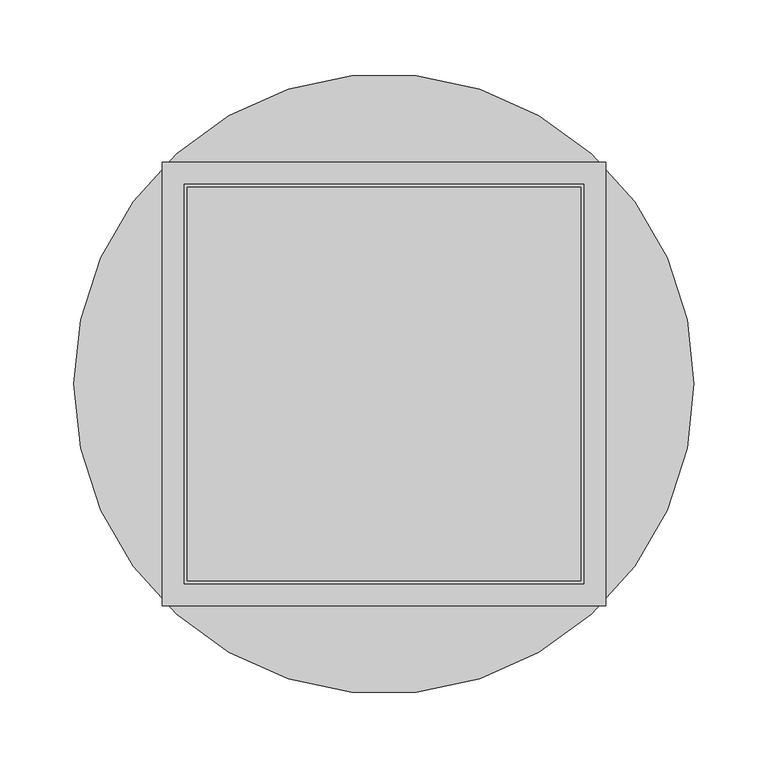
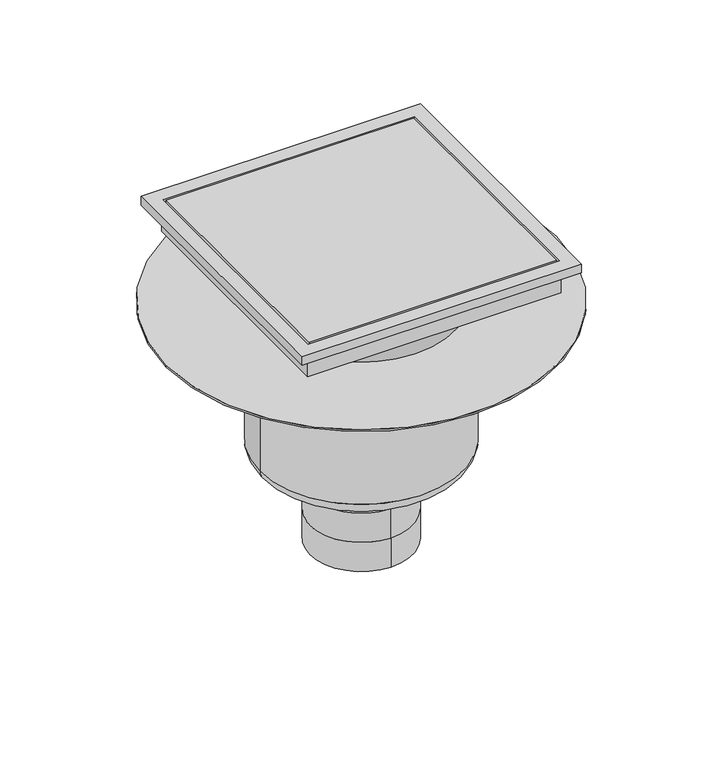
"""IFC4 building model written with IfcOpenShell, lengths in millimetres: sanitary terminal geometry, PF_ST_UN_Siphon telescopics epur hygiene first_ACO : 300 x 300 telescopic hygenic gully 218mm outlet DN110."""

from ifc_helpers import new_model, si_unit, point, frame, origin, origin_2d, place, context, project, spatial, polyline, circle_curve, ellipse_curve, trimmed, segment, composite_curve, outline, extrude, faceted_brep, source, transform, mapped, element, save
from ifc_brep_helpers import plane_surface, cylinder_surface, revolved_surface, advanced_brep


def sanitary_terminal_a351f0a7(model_context):
    return source(origin(), model_context, "Body", "SolidModel", [
        advanced_brep(
        [(0.0, -55.0, -469.0), (0.0, 55.0, -469.0), (0.0, -55.0, -436.0), (0.0, 55.0, -436.0), (0.0, -55.0, -403.0), (0.0, 55.0, -403.0), (0.0, 55.0, -370.0), (55.0, 0.0, -370.0), (0.0, -55.0, -370.0), (-55.0, 0.0, -370.0), (109.0, 0.0, -355.0), (-109.0, 0.0, -355.0), (-109.0, 0.0, -202.0), (109.0, 0.0, -202.0), (94.0, 0.0, -370.0), (-94.0, 0.0, -370.0), (-209.5, 0.0, -202.0), (209.5, 0.0, -202.0), (-209.5, 0.0, -200.0), (209.5, 0.0, -200.0)],
        [
            (0, 1, circle_curve(frame((0.0, 0.0, -469.0), z_axis=(0.0, 0.0, -1.0), x_axis=(0.0, 1.0, 0.0)), 55.0)),
            (1, 0, circle_curve(frame((0.0, 0.0, -469.0), z_axis=(0.0, 0.0, -1.0), x_axis=(0.0, 1.0, 0.0)), 55.0)),
            (0, 2),
            (2, 3, circle_curve(frame((0.0, 0.0, -436.0), z_axis=(0.0, 0.0, -1.0), x_axis=(0.0, 1.0, 0.0)), 55.0)),
            (3, 1),
            (3, 2, circle_curve(frame((0.0, 0.0, -436.0), z_axis=(0.0, 0.0, -1.0), x_axis=(0.0, 1.0, 0.0)), 55.0)),
            (4, 2),
            (3, 5),
            (5, 4, circle_curve(frame((0.0, 0.0, -403.0), z_axis=(0.0, 0.0, -1.0), x_axis=(1.0, 0.0, 0.0)), 55.0)),
            (4, 5, circle_curve(frame((0.0, 0.0, -403.0), z_axis=(0.0, 0.0, -1.0), x_axis=(-1.0, 0.0, 0.0)), 55.0)),
            (5, 6),
            (6, 7, circle_curve(frame((0.0, 0.0, -370.0), z_axis=(0.0, 0.0, -1.0), x_axis=(0.0, 1.0, 0.0)), 55.0)),
            (7, 8, circle_curve(frame((0.0, 0.0, -370.0), z_axis=(0.0, 0.0, -1.0), x_axis=(0.0, 1.0, 0.0)), 55.0)),
            (8, 4),
            (8, 9, circle_curve(frame((0.0, 0.0, -370.0), z_axis=(0.0, 0.0, -1.0), x_axis=(0.0, 1.0, 0.0)), 55.0)),
            (9, 6, circle_curve(frame((0.0, 0.0, -370.0), z_axis=(0.0, 0.0, -1.0), x_axis=(0.0, 1.0, 0.0)), 55.0)),
            (10, 11, circle_curve(frame((0.0, 0.0, -355.0), z_axis=(0.0, 0.0, 1.0), x_axis=(-1.0, 0.0, 0.0)), 109.0)),
            (11, 12),
            (12, 13, circle_curve(frame((0.0, 0.0, -202.0), z_axis=(0.0, 0.0, -1.0), x_axis=(-1.0, 0.0, 0.0)), 109.0)),
            (13, 10),
            (11, 10, circle_curve(frame((0.0, 0.0, -355.0), z_axis=(0.0, 0.0, 1.0), x_axis=(-1.0, 0.0, 0.0)), 109.0)),
            (13, 12, circle_curve(frame((0.0, 0.0, -202.0), z_axis=(0.0, 0.0, -1.0), x_axis=(-1.0, 0.0, 0.0)), 109.0)),
            (10, 14, circle_curve(frame((94.0, 0.0, -355.0), z_axis=(0.0, 1.0, 0.0), x_axis=(-1.0, 0.0, 0.0)), 15.0)),
            (14, 15, circle_curve(frame((0.0, 0.0, -370.0), z_axis=(0.0, 0.0, 1.0), x_axis=(-1.0, 0.0, 0.0)), 94.0)),
            (15, 11, circle_curve(frame((-94.0, 0.0, -355.0), z_axis=(0.0, 1.0, 0.0), x_axis=(1.0, 0.0, 0.0)), 15.0)),
            (15, 14, circle_curve(frame((0.0, 0.0, -370.0), z_axis=(0.0, 0.0, 1.0), x_axis=(-1.0, 0.0, 0.0)), 94.0)),
            (14, 7),
            (9, 15),
            (16, 17, circle_curve(frame((0.0, 0.0, -202.0), z_axis=(0.0, 0.0, -1.0), x_axis=(1.0, 0.0, 0.0)), 209.5)),
            (17, 16, circle_curve(frame((0.0, 0.0, -202.0), z_axis=(0.0, 0.0, -1.0), x_axis=(1.0, 0.0, 0.0)), 209.5)),
            (18, 19, circle_curve(frame((0.0, 0.0, -200.0), z_axis=(0.0, 0.0, 1.0), x_axis=(1.0, 0.0, 0.0)), 209.5)),
            (19, 18, circle_curve(frame((0.0, 0.0, -200.0), z_axis=(0.0, 0.0, 1.0), x_axis=(1.0, 0.0, 0.0)), 209.5)),
            (17, 19),
            (18, 16),
        ],
        [
            plane_surface(frame((0.0, 55.0, -469.0), z_axis=(0.0, 0.0, -1.0), x_axis=(1.0, 0.0, 0.0))),
            cylinder_surface(frame((0.0, 0.0, -436.0), z_axis=(0.0, 0.0, -1.0), x_axis=(0.0, 1.0, 0.0)), 55.0),
            cylinder_surface(frame((0.0, 0.0, -403.0), z_axis=(0.0, 0.0, -1.0), x_axis=(1.0, 0.0, 0.0)), 55.0),
            cylinder_surface(frame((0.0, 0.0, -403.0), z_axis=(0.0, 0.0, -1.0), x_axis=(-1.0, 0.0, 0.0)), 55.0),
            cylinder_surface(frame((0.0, 0.0, -370.0), z_axis=(0.0, 0.0, -1.0), x_axis=(0.0, 1.0, 0.0)), 55.0),
            cylinder_surface(frame((0.0, 0.0, -140.0), z_axis=(0.0, 0.0, -1.0), x_axis=(-1.0, 0.0, 0.0)), 109.0),
            revolved_surface(trimmed(ellipse_curve(frame((-94.0, 0.0, -355.0), z_axis=(0.0, -1.0, 0.0), x_axis=(1.0, 0.0, 0.0)), 15.0, 15.0), [point((-109.0, 0.0, -355.0))], [point((-94.0, 0.0, -370.0))], True, "CARTESIAN"), (0.0, 0.0, -140.0), (0.0, 0.0, -1.0)),
            plane_surface(frame((0.0, 0.0, -370.0), z_axis=(0.0, 0.0, -1.0), x_axis=(-1.0, 0.0, 0.0))),
            plane_surface(frame((209.5, 0.0, -202.0), z_axis=(0.0, 0.0, -1.0), x_axis=(0.0, -1.0, 0.0))),
            plane_surface(frame((209.5, 0.0, -200.0), z_axis=(0.0, 0.0, 1.0), x_axis=(0.0, 1.0, 0.0))),
            cylinder_surface(frame((0.0, 0.0, -202.0), z_axis=(0.0, 0.0, 1.0), x_axis=(1.0, 0.0, 0.0)), 209.5),
        ],
        [
            (0, [[1, 2]]),
            (1, [[-1, 3, 4, 5]]),
            (1, [[-2, -5, 6, -3]]),
            (2, [[7, -6, 8, 9]]),
            (3, [[-7, 10, -8, -4]]),
            (4, [[11, 12, 13, 14, -9]]),
            (4, [[-11, -10, -14, 15, 16]]),
            (5, [[17, 18, 19, 20]]),
            (5, [[-18, 21, -20, 22]]),
            (6, [[-17, 23, 24, 25]]),
            (6, [[-21, -25, 26, -23]]),
            (7, [[-24, 27, -12, -16, 28]]),
            (7, [[-26, -28, -15, -13, -27]]),
            (8, [[29, 30], [-19, -22]]),
            (9, [[31, 32]]),
            (10, [[-30, 33, -31, 34]]),
            (10, [[-29, -34, -32, -33]]),
        ],
    ),
        extrude(outline(composite_curve([segment(trimmed(circle_curve(origin_2d(), 100.0), [point((-100.0, 0.0))], [point((100.0, 0.0))], False, "CARTESIAN"), True, "CONTINUOUS"), segment(trimmed(circle_curve(origin_2d(), 100.0), [point((100.0, 0.0))], [point((-100.0, 0.0))], False, "CARTESIAN"), True, "CONTINUOUS")], self_intersect=False)), frame((0.0, 0.0, -215.0), z_axis=(0.0, 0.0, 1.0), x_axis=(1.0, 0.0, 0.0)), (0.0, 0.0, 1.0), 59.0),
        faceted_brep([(150.0, 150.0, -130.0), (150.0, 150.0, -120.0), (150.0, -150.0, -120.0), (150.0, -150.0, -130.0), (136.0, 136.0, -156.0), (136.0, 136.0, -130.0), (136.0, -136.0, -130.0), (136.0, -136.0, -156.0), (135.0, -135.0, -120.0), (135.0, 135.0, -120.0), (135.0, 135.0, -146.0), (135.0, -135.0, -146.0), (-150.0, -150.0, -120.0), (-150.0, -150.0, -130.0), (-136.0, -136.0, -130.0), (-136.0, -136.0, -156.0), (-135.0, -135.0, -120.0), (-135.0, -135.0, -146.0), (-150.0, 150.0, -120.0), (-150.0, 150.0, -130.0), (-136.0, 136.0, -130.0), (-136.0, 136.0, -156.0), (-135.0, 135.0, -120.0), (-135.0, 135.0, -146.0)], [[[0, 1, 2, 3]], [[4, 5, 6, 7]], [[8, 9, 10, 11]], [[3, 2, 12, 13]], [[7, 6, 14, 15]], [[16, 8, 11, 17]], [[13, 12, 18, 19]], [[15, 14, 20, 21]], [[22, 16, 17, 23]], [[2, 1, 18, 12], [9, 8, 16, 22]], [[1, 0, 19, 18]], [[0, 3, 13, 19], [6, 5, 20, 14]], [[5, 4, 21, 20]], [[4, 7, 15, 21]], [[9, 22, 23, 10]], [[11, 10, 23, 17]]]),
        extrude(outline(polyline([(133.0, 133.0), (133.0, -133.0), (-133.0, -133.0), (-133.0, 133.0), (133.0, 133.0)])), frame((0.0, 0.0, -146.0), z_axis=(0.0, 0.0, 1.0), x_axis=(1.0, 0.0, 0.0)), (0.0, 0.0, 1.0), 26.0),
    ])


if __name__ == "__main__":
    model = new_model("IFC4")
    model_context = context("Model", 3, world=origin())
    ifc_project = project(units=[si_unit("LENGTHUNIT", "METRE", prefix="MILLI")], contexts=[model_context])
    site = spatial("IfcSite", under=ifc_project)
    building = spatial("IfcBuilding", under=site)
    placement = place(None, origin())
    sanitary_terminal_shape = sanitary_terminal_a351f0a7(model_context)
    element("IfcSanitaryTerminal", 1, ObjectType="PF_ST_UN_Siphon telescopics epur hygiene first_ACO : 300 x 300 telescopic hygenic gully 218mm outlet DN110", at=placement, inside=building, context=model_context, shape_type="MappedRepresentation", body=[
        mapped(sanitary_terminal_shape, transform((0.0, 0.0, 0.0), x_axis=(1.0, 0.0, 0.0), y_axis=(0.0, 1.0, 0.0), z_axis=(0.0, 0.0, 1.0))),
    ])
    save(model, "model.ifc")
